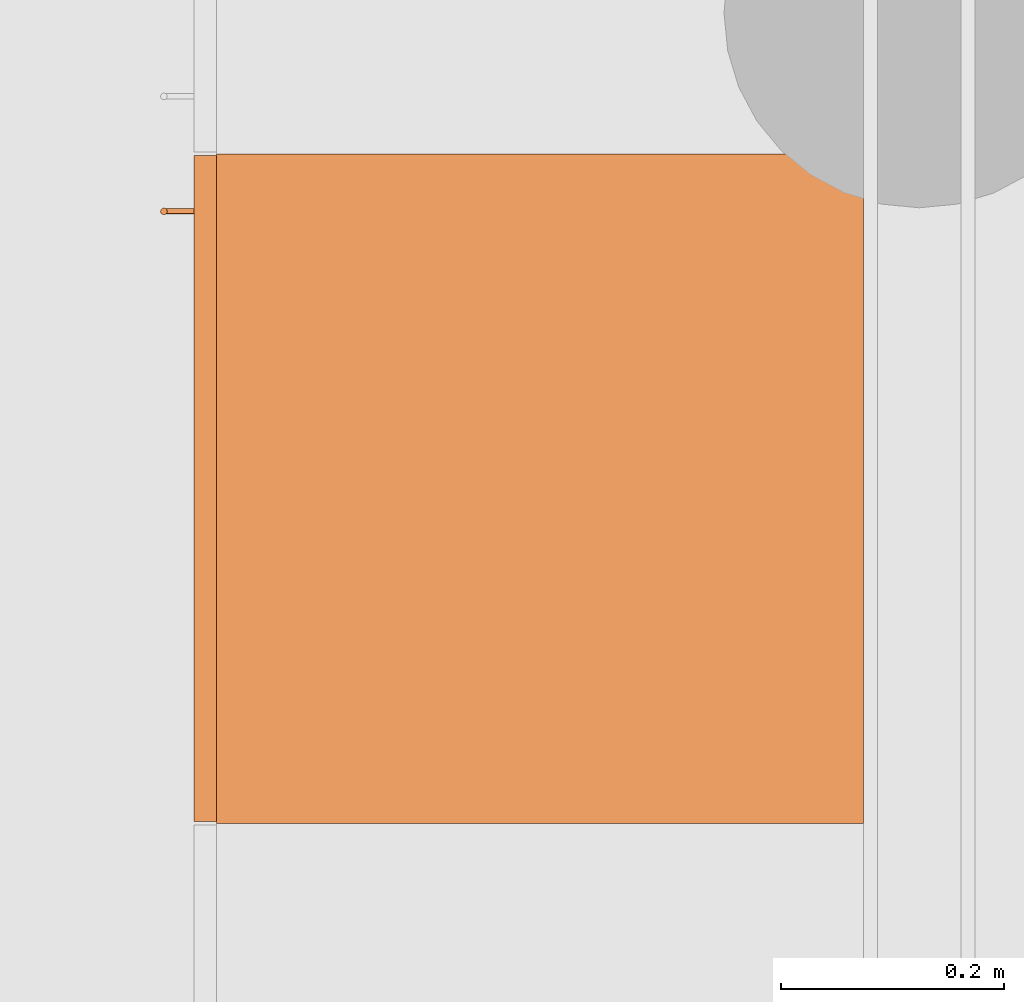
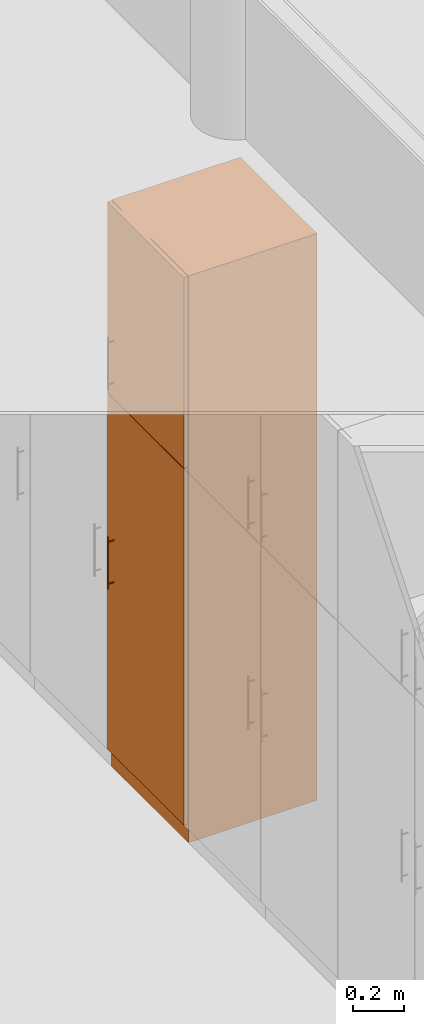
# One storey, part 86 of 167: 1 proxy.
"""IFC2X3 building model written with IfcOpenShell, lengths in millimetres."""

from ifc_helpers import new_model, entity, si_unit, converted_unit, derived_unit, money_unit, direction, frame, origin_with_axes, place, context, subcontext, project, spatial, open_shell, faceted_brep, surface_model, source, transform, mapped, type_object, type_shapes, element, save


model = new_model("IFC2X3")

# Units and contexts
model_context = context("Model", 3, precision=0.01, world=origin_with_axes(), true_north=direction((0.0, 1.0)))
plan_context = context("Plan", 3, precision=0.01, world=origin_with_axes(), true_north=direction((0.0, 1.0)))
body_context = subcontext(model_context, "Body", "Model", "MODEL_VIEW")
ifc_project = project(units=[si_unit("LENGTHUNIT", "METRE", prefix="MILLI"), si_unit("AREAUNIT", "SQUARE_METRE"), si_unit("VOLUMEUNIT", "CUBIC_METRE"), converted_unit("PLANEANGLEUNIT", "DEGREE", entity("IfcPlaneAngleMeasure", 0.0174532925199), si_unit("PLANEANGLEUNIT", "RADIAN"), dimensions=[0, 0, 0, 0, 0, 0, 0]), si_unit("SOLIDANGLEUNIT", "STERADIAN"), money_unit("EUR"), converted_unit("TIMEUNIT", "Year", entity("IfcTimeMeasure", 31556926.0), si_unit("TIMEUNIT", "SECOND"), dimensions=[0, 0, 1, 0, 0, 0, 0]), si_unit("MASSUNIT", "GRAM", prefix="KILO"), si_unit("THERMODYNAMICTEMPERATUREUNIT", "DEGREE_CELSIUS"), si_unit("LUMINOUSINTENSITYUNIT", "LUMEN"), si_unit("ENERGYUNIT", "JOULE", prefix="MEGA"), derived_unit("THERMALCONDUCTANCEUNIT", [(si_unit("POWERUNIT", "WATT"), 1), (si_unit("LENGTHUNIT", "METRE"), -1), (si_unit("THERMODYNAMICTEMPERATUREUNIT", "KELVIN"), -1)]), derived_unit("SPECIFICHEATCAPACITYUNIT", [(si_unit("ENERGYUNIT", "JOULE"), 1), (si_unit("MASSUNIT", "GRAM", prefix="KILO"), -1), (si_unit("THERMODYNAMICTEMPERATUREUNIT", "KELVIN"), -1)]), derived_unit("MASSDENSITYUNIT", [(si_unit("MASSUNIT", "GRAM", prefix="KILO"), 1), (si_unit("VOLUMEUNIT", "CUBIC_METRE"), -1)])], contexts=[model_context, plan_context])

# Site, building, storey
site_placement = place(None, origin_with_axes())
site = spatial("IfcSite", under=ifc_project, at=site_placement, Name="Site", CompositionType="ELEMENT")
building_placement = place(site_placement, origin_with_axes())
building = spatial("IfcBuilding", under=site, at=building_placement, Name="Naam gebouw", CompositionType="ELEMENT")
storey_placement = place(building_placement, origin_with_axes())
storey = spatial("IfcBuildingStorey", under=building, at=storey_placement, Name="Begane grond", CompositionType="ELEMENT", Elevation=0.0)

# Proxy
building_element_proxy_type = type_object("IfcBuildingElementProxyType", Name="Kast hoog 1D 24", PredefinedType="NOTDEFINED")
shared_shape = source(origin_with_axes(), body_context, "Body", "SurfaceModel", [
    faceted_brep([(-20.0, 20.0, 1780.0), (-20.0, 20.0, 1800.0), (-580.0, 20.0, 1800.0), (-580.0, 20.0, 1780.0), (-20.0, 580.0, 1780.0), (-20.0, 580.0, 1800.0), (-580.0, 580.0, 1800.0), (-580.0, 580.0, 1780.0)], [[[0, 1, 2, 3]], [[4, 5, 1, 0]], [[1, 5, 6, 2]], [[3, 2, 6, 7]], [[0, 3, 7, 4]], [[7, 6, 5, 4]]]),
    faceted_brep([(0.0, 20.0, 0.0), (0.0, 20.0, 90.0), (-600.0, 20.0, 90.0), (-600.0, 20.0, 0.0), (0.0, 600.0, 0.0), (0.0, 600.0, 90.0), (-600.0, 600.0, 90.0), (-600.0, 600.0, 0.0)], [[[0, 1, 2, 3]], [[4, 5, 1, 0]], [[1, 5, 6, 2]], [[3, 2, 6, 7]], [[0, 3, 7, 4]], [[7, 6, 5, 4]]]),
    faceted_brep([(0.0, 20.0, 2680.0), (0.0, 20.0, 2700.0), (-20.0, 20.0, 2700.0), (-20.0, 20.0, 2680.0), (0.0, 600.0, 2680.0), (0.0, 600.0, 2700.0), (-20.0, 600.0, 2700.0), (-580.0, 600.0, 2700.0), (-600.0, 600.0, 2700.0), (-600.0, 20.0, 2700.0), (-580.0, 20.0, 2700.0), (-580.0, 20.0, 2680.0), (-600.0, 20.0, 2680.0), (-600.0, 600.0, 2680.0), (-580.0, 600.0, 2680.0), (-20.0, 600.0, 2680.0)], [[[0, 1, 2, 3]], [[4, 5, 1, 0]], [[1, 5, 6, 7, 8, 9, 10, 2]], [[3, 2, 10, 11]], [[0, 3, 11, 12, 13, 14, 15, 4]], [[15, 6, 5, 4]], [[14, 7, 6, 15]], [[13, 8, 7, 14]], [[12, 9, 8, 13]], [[11, 10, 9, 12]]]),
    faceted_brep([(0.0, 20.0, 90.0), (0.0, 20.0, 110.0), (-20.0, 20.0, 110.0), (-20.0, 20.0, 90.0), (0.0, 600.0, 90.0), (0.0, 600.0, 110.0), (-20.0, 600.0, 110.0), (-580.0, 600.0, 110.0), (-600.0, 600.0, 110.0), (-600.0, 20.0, 110.0), (-580.0, 20.0, 110.0), (-580.0, 20.0, 90.0), (-600.0, 20.0, 90.0), (-600.0, 600.0, 90.0), (-580.0, 600.0, 90.0), (-20.0, 600.0, 90.0)], [[[0, 1, 2, 3]], [[4, 5, 1, 0]], [[1, 5, 6, 7, 8, 9, 10, 2]], [[3, 2, 10, 11]], [[0, 3, 11, 12, 13, 14, 15, 4]], [[15, 6, 5, 4]], [[14, 7, 6, 15]], [[13, 8, 7, 14]], [[12, 9, 8, 13]], [[11, 10, 9, 12]]]),
    faceted_brep([(0.0, 20.0, 110.0), (0.0, 20.0, 2680.0), (-20.0, 20.0, 2680.0), (-20.0, 20.0, 110.0), (0.0, 600.0, 110.0), (0.0, 600.0, 2680.0), (-600.0, 600.0, 2680.0), (-600.0, 20.0, 2680.0), (-580.0, 20.0, 2680.0), (-580.0, 580.0, 2680.0), (-20.0, 580.0, 2680.0), (-20.0, 580.0, 110.0), (-580.0, 580.0, 110.0), (-580.0, 20.0, 110.0), (-600.0, 20.0, 110.0), (-600.0, 600.0, 110.0)], [[[0, 1, 2, 3]], [[4, 5, 1, 0]], [[1, 5, 6, 7, 8, 9, 10, 2]], [[3, 2, 10, 11]], [[0, 3, 11, 12, 13, 14, 15, 4]], [[15, 6, 5, 4]], [[14, 7, 6, 15]], [[13, 8, 7, 14]], [[12, 9, 8, 13]], [[11, 10, 9, 12]]]),
    faceted_brep([(-580.0, 20.0, 414.0), (-580.0, 20.0, 434.0), (-580.0, 580.0, 434.0), (-580.0, 580.0, 414.0), (-20.0, 20.0, 414.0), (-20.0, 20.0, 434.0), (-20.0, 580.0, 434.0), (-20.0, 580.0, 414.0)], [[[0, 1, 2, 3]], [[4, 5, 1, 0]], [[1, 5, 6, 2]], [[3, 2, 6, 7]], [[0, 3, 7, 4]], [[7, 6, 5, 4]]]),
    faceted_brep([(-580.0, 20.0, 758.0), (-580.0, 20.0, 778.0), (-580.0, 580.0, 778.0), (-580.0, 580.0, 758.0), (-20.0, 20.0, 758.0), (-20.0, 20.0, 778.0), (-20.0, 580.0, 778.0), (-20.0, 580.0, 758.0)], [[[0, 1, 2, 3]], [[4, 5, 1, 0]], [[1, 5, 6, 2]], [[3, 2, 6, 7]], [[0, 3, 7, 4]], [[7, 6, 5, 4]]]),
    faceted_brep([(-580.0, 20.0, 1102.0), (-580.0, 20.0, 1122.0), (-580.0, 580.0, 1122.0), (-580.0, 580.0, 1102.0), (-20.0, 20.0, 1102.0), (-20.0, 20.0, 1122.0), (-20.0, 580.0, 1122.0), (-20.0, 580.0, 1102.0)], [[[0, 1, 2, 3]], [[4, 5, 1, 0]], [[1, 5, 6, 2]], [[3, 2, 6, 7]], [[0, 3, 7, 4]], [[7, 6, 5, 4]]]),
    faceted_brep([(-580.0, 20.0, 1446.0), (-580.0, 20.0, 1466.0), (-580.0, 580.0, 1466.0), (-580.0, 580.0, 1446.0), (-20.0, 20.0, 1446.0), (-20.0, 20.0, 1466.0), (-20.0, 580.0, 1466.0), (-20.0, 580.0, 1446.0)], [[[0, 1, 2, 3]], [[4, 5, 1, 0]], [[1, 5, 6, 2]], [[3, 2, 6, 7]], [[0, 3, 7, 4]], [[7, 6, 5, 4]]]),
    faceted_brep([(-1.5, 20.0, 91.5), (-1.5, 0.0, 91.5), (-598.5, 0.0, 91.5), (-598.5, 20.0, 91.5), (-1.5, 20.0, 1788.5), (-1.5, 0.0, 1788.5), (-598.5, 0.0, 1788.5), (-598.5, 20.0, 1788.5)], [[[0, 1, 2, 3]], [[4, 5, 1, 0]], [[1, 5, 6, 2]], [[3, 2, 6, 7]], [[0, 3, 7, 4]], [[7, 6, 5, 4]]]),
    faceted_brep([(-551.397777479, -27.7764571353, 891.5), (-551.5, -27.0, 891.5), (-551.397777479, -26.2235428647, 891.5), (-551.098076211, -25.5, 891.5), (-550.621320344, -24.8786796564, 891.5), (-550.0, -24.4019237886, 891.5), (-549.276457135, -24.1022225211, 891.5), (-548.5, -24.0, 891.5), (-547.723542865, -24.1022225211, 891.5), (-547.0, -24.4019237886, 891.5), (-546.378679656, -24.8786796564, 891.5), (-545.901923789, -25.5, 891.5), (-545.602222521, -26.2235428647, 891.5), (-545.5, -27.0, 891.5), (-545.602222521, -27.7764571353, 891.5), (-545.901923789, -28.5, 891.5), (-546.378679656, -29.1213203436, 891.5), (-547.0, -29.5980762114, 891.5), (-547.723542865, -29.8977774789, 891.5), (-548.5, -30.0, 891.5), (-549.276457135, -29.8977774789, 891.5), (-550.0, -29.5980762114, 891.5), (-550.621320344, -29.1213203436, 891.5), (-551.098076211, -28.5, 891.5), (-551.397777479, -27.7764571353, 1141.5), (-551.5, -27.0, 1141.5), (-551.397777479, -26.2235428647, 1141.5), (-551.098076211, -25.5, 1141.5), (-550.621320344, -24.8786796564, 1141.5), (-550.0, -24.4019237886, 1141.5), (-549.276457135, -24.1022225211, 1141.5), (-548.5, -24.0, 1141.5), (-547.723542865, -24.1022225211, 1141.5), (-547.0, -24.4019237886, 1141.5), (-546.378679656, -24.8786796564, 1141.5), (-545.901923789, -25.5, 1141.5), (-545.602222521, -26.2235428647, 1141.5), (-545.5, -27.0, 1141.5), (-545.602222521, -27.7764571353, 1141.5), (-545.901923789, -28.5, 1141.5), (-546.378679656, -29.1213203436, 1141.5), (-547.0, -29.5980762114, 1141.5), (-547.723542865, -29.8977774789, 1141.5), (-548.5, -30.0, 1141.5), (-549.276457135, -29.8977774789, 1141.5), (-550.0, -29.5980762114, 1141.5), (-550.621320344, -29.1213203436, 1141.5), (-551.098076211, -28.5, 1141.5)], [[[0, 1, 2, 3, 4, 5, 6, 7, 8, 9, 10, 11, 12, 13, 14, 15, 16, 17, 18, 19, 20, 21, 22, 23]], [[0, 24, 25, 1]], [[1, 25, 26, 2]], [[2, 26, 27, 3]], [[3, 27, 28, 4]], [[4, 28, 29, 5]], [[5, 29, 30, 6]], [[6, 30, 31, 7]], [[7, 31, 32, 8]], [[8, 32, 33, 9]], [[9, 33, 34, 10]], [[10, 34, 35, 11]], [[11, 35, 36, 12]], [[12, 36, 37, 13]], [[13, 37, 38, 14]], [[14, 38, 39, 15]], [[15, 39, 40, 16]], [[16, 40, 41, 17]], [[17, 41, 42, 18]], [[18, 42, 43, 19]], [[19, 43, 44, 20]], [[20, 44, 45, 21]], [[21, 45, 46, 22]], [[22, 46, 47, 23]], [[23, 47, 24, 0]], [[24, 47, 46, 45, 44, 43, 42, 41, 40, 39, 38, 37, 36, 35, 34, 33, 32, 31, 30, 29, 28, 27, 26, 25]]]),
    surface_model("IfcShellBasedSurfaceModel", [(-549.147047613, -24.070609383, 914.085185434), (-549.147047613, 0.0, 914.085185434), (-548.5, 0.0, 914.0), (-548.5, -24.0, 914.0), (-549.75, -24.2728219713, 914.334936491), (-549.75, 0.0, 914.334936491), (-550.267766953, 0.0, 914.732233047), (-550.665063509, 0.0, 915.25), (-550.914814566, 0.0, 915.852952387), (-551.0, 0.0, 916.5), (-550.914814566, 0.0, 917.147047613), (-550.665063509, 0.0, 917.75), (-550.267766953, 0.0, 918.267766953), (-549.75, 0.0, 918.665063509), (-549.147047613, 0.0, 918.914814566), (-548.5, 0.0, 919.0), (-547.852952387, 0.0, 918.914814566), (-547.25, 0.0, 918.665063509), (-546.732233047, 0.0, 918.267766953), (-546.334936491, 0.0, 917.75), (-546.085185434, 0.0, 917.147047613), (-546.0, 0.0, 916.5), (-546.085185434, 0.0, 915.852952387), (-546.334936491, 0.0, 915.25), (-546.732233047, 0.0, 914.732233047), (-547.25, 0.0, 914.334936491), (-547.852952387, 0.0, 914.085185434), (-547.852952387, -24.070609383, 914.085185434), (-550.267766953, -24.5761600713, 914.732233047), (-550.665063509, -24.9233440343, 915.25), (-550.914814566, -25.2199239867, 915.852952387), (-551.0, -25.3416876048, 916.5), (-550.914814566, -25.2199239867, 917.147047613), (-550.665063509, -24.9233440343, 917.75), (-550.267766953, -24.5761600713, 918.267766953), (-549.75, -24.2728219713, 918.665063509), (-549.147047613, -24.070609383, 918.914814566), (-548.5, -24.0, 919.0), (-547.852952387, -24.070609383, 918.914814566), (-547.25, -24.2728219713, 918.665063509), (-546.732233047, -24.5761600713, 918.267766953), (-546.334936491, -24.9233440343, 917.75), (-546.085185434, -25.2199239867, 917.147047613), (-546.0, -25.3416876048, 916.5), (-546.085185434, -25.2199239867, 915.852952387), (-546.334936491, -24.9233440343, 915.25), (-546.732233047, -24.5761600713, 914.732233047), (-547.25, -24.2728219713, 914.334936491)], [open_shell([[[0, 1, 2, 3]], [[4, 5, 1, 0]], [[1, 5, 6, 7, 8, 9, 10, 11, 12, 13, 14, 15, 16, 17, 18, 19, 20, 21, 22, 23, 24, 25, 26, 2]], [[3, 2, 26, 27]], [[28, 6, 5, 4]], [[29, 7, 6, 28]], [[30, 8, 7, 29]], [[31, 9, 8, 30]], [[32, 10, 9, 31]], [[33, 11, 10, 32]], [[34, 12, 11, 33]], [[35, 13, 12, 34]], [[36, 14, 13, 35]], [[37, 15, 14, 36]], [[38, 16, 15, 37]], [[39, 17, 16, 38]], [[40, 18, 17, 39]], [[41, 19, 18, 40]], [[42, 20, 19, 41]], [[43, 21, 20, 42]], [[44, 22, 21, 43]], [[45, 23, 22, 44]], [[46, 24, 23, 45]], [[47, 25, 24, 46]], [[27, 26, 25, 47]]])]),
    surface_model("IfcShellBasedSurfaceModel", [(-549.147047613, -24.070609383, 1114.08518543), (-549.147047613, 0.0, 1114.08518543), (-548.5, 0.0, 1114.0), (-548.5, -24.0, 1114.0), (-549.75, -24.2728219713, 1114.33493649), (-549.75, 0.0, 1114.33493649), (-550.267766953, 0.0, 1114.73223305), (-550.665063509, 0.0, 1115.25), (-550.914814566, 0.0, 1115.85295239), (-551.0, 0.0, 1116.5), (-550.914814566, 0.0, 1117.14704761), (-550.665063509, 0.0, 1117.75), (-550.267766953, 0.0, 1118.26776695), (-549.75, 0.0, 1118.66506351), (-549.147047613, 0.0, 1118.91481457), (-548.5, 0.0, 1119.0), (-547.852952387, 0.0, 1118.91481457), (-547.25, 0.0, 1118.66506351), (-546.732233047, 0.0, 1118.26776695), (-546.334936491, 0.0, 1117.75), (-546.085185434, 0.0, 1117.14704761), (-546.0, 0.0, 1116.5), (-546.085185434, 0.0, 1115.85295239), (-546.334936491, 0.0, 1115.25), (-546.732233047, 0.0, 1114.73223305), (-547.25, 0.0, 1114.33493649), (-547.852952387, 0.0, 1114.08518543), (-547.852952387, -24.070609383, 1114.08518543), (-550.267766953, -24.5761600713, 1114.73223305), (-550.665063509, -24.9233440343, 1115.25), (-550.914814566, -25.2199239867, 1115.85295239), (-551.0, -25.3416876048, 1116.5), (-550.914814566, -25.2199239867, 1117.14704761), (-550.665063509, -24.9233440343, 1117.75), (-550.267766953, -24.5761600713, 1118.26776695), (-549.75, -24.2728219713, 1118.66506351), (-549.147047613, -24.070609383, 1118.91481457), (-548.5, -24.0, 1119.0), (-547.852952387, -24.070609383, 1118.91481457), (-547.25, -24.2728219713, 1118.66506351), (-546.732233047, -24.5761600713, 1118.26776695), (-546.334936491, -24.9233440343, 1117.75), (-546.085185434, -25.2199239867, 1117.14704761), (-546.0, -25.3416876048, 1116.5), (-546.085185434, -25.2199239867, 1115.85295239), (-546.334936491, -24.9233440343, 1115.25), (-546.732233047, -24.5761600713, 1114.73223305), (-547.25, -24.2728219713, 1114.33493649)], [open_shell([[[0, 1, 2, 3]], [[4, 5, 1, 0]], [[1, 5, 6, 7, 8, 9, 10, 11, 12, 13, 14, 15, 16, 17, 18, 19, 20, 21, 22, 23, 24, 25, 26, 2]], [[3, 2, 26, 27]], [[28, 6, 5, 4]], [[29, 7, 6, 28]], [[30, 8, 7, 29]], [[31, 9, 8, 30]], [[32, 10, 9, 31]], [[33, 11, 10, 32]], [[34, 12, 11, 33]], [[35, 13, 12, 34]], [[36, 14, 13, 35]], [[37, 15, 14, 36]], [[38, 16, 15, 37]], [[39, 17, 16, 38]], [[40, 18, 17, 39]], [[41, 19, 18, 40]], [[42, 20, 19, 41]], [[43, 21, 20, 42]], [[44, 22, 21, 43]], [[45, 23, 22, 44]], [[46, 24, 23, 45]], [[47, 25, 24, 46]], [[27, 26, 25, 47]]])]),
    faceted_brep([(-1.5, 20.0, 1791.5), (-1.5, 0.0, 1791.5), (-598.5, 0.0, 1791.5), (-598.5, 20.0, 1791.5), (-1.5, 20.0, 2698.5), (-1.5, 0.0, 2698.5), (-598.5, 0.0, 2698.5), (-598.5, 20.0, 2698.5)], [[[0, 1, 2, 3]], [[4, 5, 1, 0]], [[1, 5, 6, 2]], [[3, 2, 6, 7]], [[0, 3, 7, 4]], [[7, 6, 5, 4]]]),
    faceted_brep([(-551.397777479, -27.7764571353, 1841.5), (-551.5, -27.0, 1841.5), (-551.397777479, -26.2235428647, 1841.5), (-551.098076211, -25.5, 1841.5), (-550.621320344, -24.8786796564, 1841.5), (-550.0, -24.4019237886, 1841.5), (-549.276457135, -24.1022225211, 1841.5), (-548.5, -24.0, 1841.5), (-547.723542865, -24.1022225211, 1841.5), (-547.0, -24.4019237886, 1841.5), (-546.378679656, -24.8786796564, 1841.5), (-545.901923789, -25.5, 1841.5), (-545.602222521, -26.2235428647, 1841.5), (-545.5, -27.0, 1841.5), (-545.602222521, -27.7764571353, 1841.5), (-545.901923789, -28.5, 1841.5), (-546.378679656, -29.1213203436, 1841.5), (-547.0, -29.5980762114, 1841.5), (-547.723542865, -29.8977774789, 1841.5), (-548.5, -30.0, 1841.5), (-549.276457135, -29.8977774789, 1841.5), (-550.0, -29.5980762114, 1841.5), (-550.621320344, -29.1213203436, 1841.5), (-551.098076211, -28.5, 1841.5), (-551.397777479, -27.7764571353, 2091.5), (-551.5, -27.0, 2091.5), (-551.397777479, -26.2235428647, 2091.5), (-551.098076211, -25.5, 2091.5), (-550.621320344, -24.8786796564, 2091.5), (-550.0, -24.4019237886, 2091.5), (-549.276457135, -24.1022225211, 2091.5), (-548.5, -24.0, 2091.5), (-547.723542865, -24.1022225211, 2091.5), (-547.0, -24.4019237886, 2091.5), (-546.378679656, -24.8786796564, 2091.5), (-545.901923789, -25.5, 2091.5), (-545.602222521, -26.2235428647, 2091.5), (-545.5, -27.0, 2091.5), (-545.602222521, -27.7764571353, 2091.5), (-545.901923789, -28.5, 2091.5), (-546.378679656, -29.1213203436, 2091.5), (-547.0, -29.5980762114, 2091.5), (-547.723542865, -29.8977774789, 2091.5), (-548.5, -30.0, 2091.5), (-549.276457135, -29.8977774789, 2091.5), (-550.0, -29.5980762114, 2091.5), (-550.621320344, -29.1213203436, 2091.5), (-551.098076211, -28.5, 2091.5)], [[[0, 1, 2, 3, 4, 5, 6, 7, 8, 9, 10, 11, 12, 13, 14, 15, 16, 17, 18, 19, 20, 21, 22, 23]], [[0, 24, 25, 1]], [[1, 25, 26, 2]], [[2, 26, 27, 3]], [[3, 27, 28, 4]], [[4, 28, 29, 5]], [[5, 29, 30, 6]], [[6, 30, 31, 7]], [[7, 31, 32, 8]], [[8, 32, 33, 9]], [[9, 33, 34, 10]], [[10, 34, 35, 11]], [[11, 35, 36, 12]], [[12, 36, 37, 13]], [[13, 37, 38, 14]], [[14, 38, 39, 15]], [[15, 39, 40, 16]], [[16, 40, 41, 17]], [[17, 41, 42, 18]], [[18, 42, 43, 19]], [[19, 43, 44, 20]], [[20, 44, 45, 21]], [[21, 45, 46, 22]], [[22, 46, 47, 23]], [[23, 47, 24, 0]], [[24, 47, 46, 45, 44, 43, 42, 41, 40, 39, 38, 37, 36, 35, 34, 33, 32, 31, 30, 29, 28, 27, 26, 25]]]),
    surface_model("IfcShellBasedSurfaceModel", [(-549.147047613, -24.070609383, 1864.08518543), (-549.147047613, 0.0, 1864.08518543), (-548.5, 0.0, 1864.0), (-548.5, -24.0, 1864.0), (-549.75, -24.2728219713, 1864.33493649), (-549.75, 0.0, 1864.33493649), (-550.267766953, 0.0, 1864.73223305), (-550.665063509, 0.0, 1865.25), (-550.914814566, 0.0, 1865.85295239), (-551.0, 0.0, 1866.5), (-550.914814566, 0.0, 1867.14704761), (-550.665063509, 0.0, 1867.75), (-550.267766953, 0.0, 1868.26776695), (-549.75, 0.0, 1868.66506351), (-549.147047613, 0.0, 1868.91481457), (-548.5, 0.0, 1869.0), (-547.852952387, 0.0, 1868.91481457), (-547.25, 0.0, 1868.66506351), (-546.732233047, 0.0, 1868.26776695), (-546.334936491, 0.0, 1867.75), (-546.085185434, 0.0, 1867.14704761), (-546.0, 0.0, 1866.5), (-546.085185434, 0.0, 1865.85295239), (-546.334936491, 0.0, 1865.25), (-546.732233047, 0.0, 1864.73223305), (-547.25, 0.0, 1864.33493649), (-547.852952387, 0.0, 1864.08518543), (-547.852952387, -24.070609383, 1864.08518543), (-550.267766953, -24.5761600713, 1864.73223305), (-550.665063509, -24.9233440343, 1865.25), (-550.914814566, -25.2199239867, 1865.85295239), (-551.0, -25.3416876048, 1866.5), (-550.914814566, -25.2199239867, 1867.14704761), (-550.665063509, -24.9233440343, 1867.75), (-550.267766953, -24.5761600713, 1868.26776695), (-549.75, -24.2728219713, 1868.66506351), (-549.147047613, -24.070609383, 1868.91481457), (-548.5, -24.0, 1869.0), (-547.852952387, -24.070609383, 1868.91481457), (-547.25, -24.2728219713, 1868.66506351), (-546.732233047, -24.5761600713, 1868.26776695), (-546.334936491, -24.9233440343, 1867.75), (-546.085185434, -25.2199239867, 1867.14704761), (-546.0, -25.3416876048, 1866.5), (-546.085185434, -25.2199239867, 1865.85295239), (-546.334936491, -24.9233440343, 1865.25), (-546.732233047, -24.5761600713, 1864.73223305), (-547.25, -24.2728219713, 1864.33493649)], [open_shell([[[0, 1, 2, 3]], [[4, 5, 1, 0]], [[1, 5, 6, 7, 8, 9, 10, 11, 12, 13, 14, 15, 16, 17, 18, 19, 20, 21, 22, 23, 24, 25, 26, 2]], [[3, 2, 26, 27]], [[28, 6, 5, 4]], [[29, 7, 6, 28]], [[30, 8, 7, 29]], [[31, 9, 8, 30]], [[32, 10, 9, 31]], [[33, 11, 10, 32]], [[34, 12, 11, 33]], [[35, 13, 12, 34]], [[36, 14, 13, 35]], [[37, 15, 14, 36]], [[38, 16, 15, 37]], [[39, 17, 16, 38]], [[40, 18, 17, 39]], [[41, 19, 18, 40]], [[42, 20, 19, 41]], [[43, 21, 20, 42]], [[44, 22, 21, 43]], [[45, 23, 22, 44]], [[46, 24, 23, 45]], [[47, 25, 24, 46]], [[27, 26, 25, 47]]])]),
    surface_model("IfcShellBasedSurfaceModel", [(-549.147047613, -24.070609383, 2064.08518543), (-549.147047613, 0.0, 2064.08518543), (-548.5, 0.0, 2064.0), (-548.5, -24.0, 2064.0), (-549.75, -24.2728219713, 2064.33493649), (-549.75, 0.0, 2064.33493649), (-550.267766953, 0.0, 2064.73223305), (-550.665063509, 0.0, 2065.25), (-550.914814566, 0.0, 2065.85295239), (-551.0, 0.0, 2066.5), (-550.914814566, 0.0, 2067.14704761), (-550.665063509, 0.0, 2067.75), (-550.267766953, 0.0, 2068.26776695), (-549.75, 0.0, 2068.66506351), (-549.147047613, 0.0, 2068.91481457), (-548.5, 0.0, 2069.0), (-547.852952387, 0.0, 2068.91481457), (-547.25, 0.0, 2068.66506351), (-546.732233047, 0.0, 2068.26776695), (-546.334936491, 0.0, 2067.75), (-546.085185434, 0.0, 2067.14704761), (-546.0, 0.0, 2066.5), (-546.085185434, 0.0, 2065.85295239), (-546.334936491, 0.0, 2065.25), (-546.732233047, 0.0, 2064.73223305), (-547.25, 0.0, 2064.33493649), (-547.852952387, 0.0, 2064.08518543), (-547.852952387, -24.070609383, 2064.08518543), (-550.267766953, -24.5761600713, 2064.73223305), (-550.665063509, -24.9233440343, 2065.25), (-550.914814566, -25.2199239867, 2065.85295239), (-551.0, -25.3416876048, 2066.5), (-550.914814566, -25.2199239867, 2067.14704761), (-550.665063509, -24.9233440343, 2067.75), (-550.267766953, -24.5761600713, 2068.26776695), (-549.75, -24.2728219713, 2068.66506351), (-549.147047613, -24.070609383, 2068.91481457), (-548.5, -24.0, 2069.0), (-547.852952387, -24.070609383, 2068.91481457), (-547.25, -24.2728219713, 2068.66506351), (-546.732233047, -24.5761600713, 2068.26776695), (-546.334936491, -24.9233440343, 2067.75), (-546.085185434, -25.2199239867, 2067.14704761), (-546.0, -25.3416876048, 2066.5), (-546.085185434, -25.2199239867, 2065.85295239), (-546.334936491, -24.9233440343, 2065.25), (-546.732233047, -24.5761600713, 2064.73223305), (-547.25, -24.2728219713, 2064.33493649)], [open_shell([[[0, 1, 2, 3]], [[4, 5, 1, 0]], [[1, 5, 6, 7, 8, 9, 10, 11, 12, 13, 14, 15, 16, 17, 18, 19, 20, 21, 22, 23, 24, 25, 26, 2]], [[3, 2, 26, 27]], [[28, 6, 5, 4]], [[29, 7, 6, 28]], [[30, 8, 7, 29]], [[31, 9, 8, 30]], [[32, 10, 9, 31]], [[33, 11, 10, 32]], [[34, 12, 11, 33]], [[35, 13, 12, 34]], [[36, 14, 13, 35]], [[37, 15, 14, 36]], [[38, 16, 15, 37]], [[39, 17, 16, 38]], [[40, 18, 17, 39]], [[41, 19, 18, 40]], [[42, 20, 19, 41]], [[43, 21, 20, 42]], [[44, 22, 21, 43]], [[45, 23, 22, 44]], [[46, 24, 23, 45]], [[47, 25, 24, 46]], [[27, 26, 25, 47]]])]),
])
type_shapes(building_element_proxy_type, [shared_shape])
proxy_placement = place(storey_placement, frame((13750.0, 6473.34783859, 0.0), z_axis=(0.0, 0.0, 1.0), x_axis=(0.0, -1.0, 0.0)))
element("IfcBuildingElementProxy", 1, at=proxy_placement, inside=storey, type_object=building_element_proxy_type, Name="__Object-x", context=body_context, shape_type="MappedRepresentation", body=[
    mapped(shared_shape, transform((0.0, 0.0, 0.0))),
])

save(model, "model.ifc")
